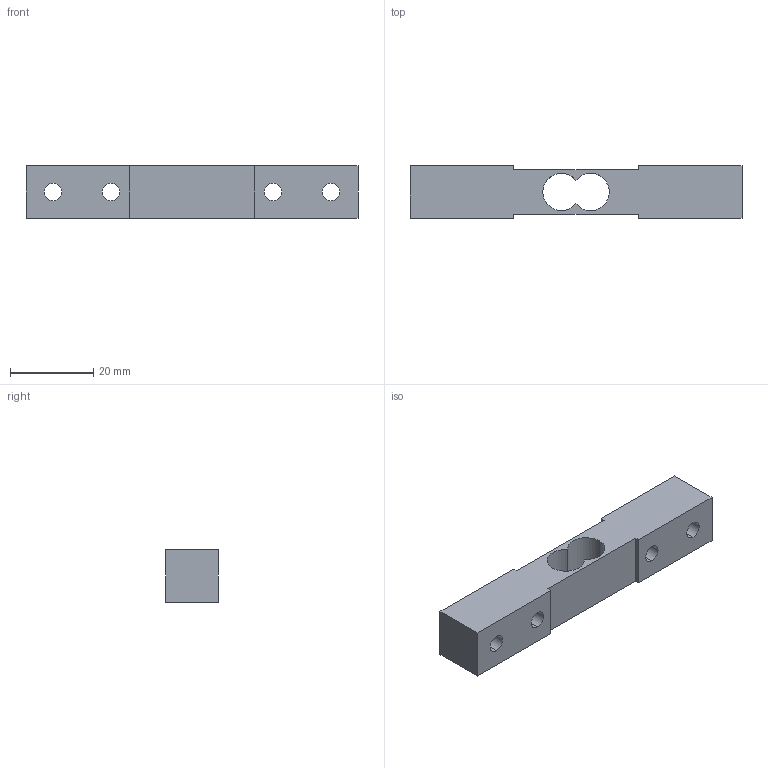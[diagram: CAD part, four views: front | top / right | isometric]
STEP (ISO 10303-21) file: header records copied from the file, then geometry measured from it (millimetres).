
FILE_DESCRIPTION (( 'STEP AP203' ), '1' );
FILE_NAME ('rsp4.STEP', '2017-03-14T12:53:00', ( '' ), ( '' ), 'SwSTEP 2.0', 'SolidWorks 2016', '' );
FILE_SCHEMA (( 'CONFIG_CONTROL_DESIGN' ));
Length unit declared in the file: millimetre
Products named in the file (1): rsp4
Bounding box: 80 x 12.7 x 12.7 mm (x, y, z)
Volume: 9919.7 mm3; surface area: 5200.6 mm2
Topology: 1 solids, 1 shells, 25 faces, 69 edges, 46 vertices
Faces by surface type: plane 14, cylinder 11
Entity records: 902 total; most frequent: DIRECTION 143, CARTESIAN_POINT 141, ORIENTED_EDGE 138, EDGE_CURVE 69, AXIS2_PLACEMENT_3D 48, LINE 47, VECTOR 47, VERTEX_POINT 46
